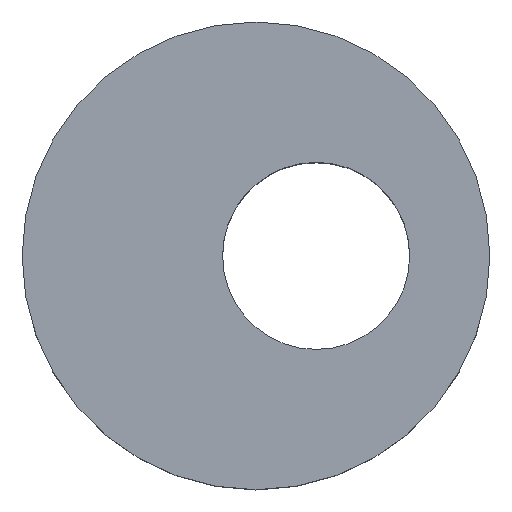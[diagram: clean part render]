
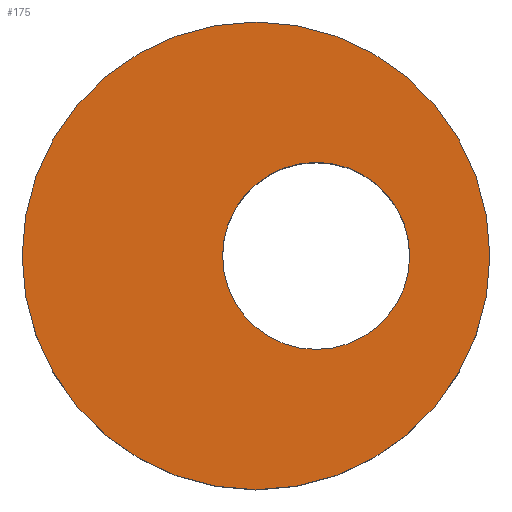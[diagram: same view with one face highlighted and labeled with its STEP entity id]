
A CAD part, top view. The second image highlights one B-rep face of the part: STEP entity #175.
In plain terms, the highlighted planar face has unit normal (0, 0, 1).
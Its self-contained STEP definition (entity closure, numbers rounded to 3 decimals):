
#104=CARTESIAN_POINT('',(2.6,0.,4.4));
#105=VERTEX_POINT('',#104);
#106=CARTESIAN_POINT('',(-0.9,0.,4.4));
#107=DIRECTION('',(0.0,0.0,-1.0));
#108=DIRECTION('',(-1.0,0.0,0.0));
#109=AXIS2_PLACEMENT_3D('',#106,#107,#108);
#110=CIRCLE('',#109,3.5);
#111=EDGE_CURVE('',#105,#105,#110,.T.);
#121=CARTESIAN_POINT('',(1.4,0.,4.4));
#122=VERTEX_POINT('',#121);
#123=CARTESIAN_POINT('',(0.0,0.0,4.4));
#124=DIRECTION('',(0.0,0.0,-1.0));
#125=DIRECTION('',(-1.0,0.0,0.0));
#126=AXIS2_PLACEMENT_3D('',#123,#124,#125);
#127=CIRCLE('',#126,1.4);
#128=EDGE_CURVE('',#122,#122,#127,.T.);
#164=CARTESIAN_POINT('',(0.0,0.0,4.4));
#165=DIRECTION('',(0.0,0.0,-1.0));
#166=DIRECTION('',(-1.0,0.0,0.0));
#167=AXIS2_PLACEMENT_3D('',#164,#165,#166);
#168=PLANE('',#167);
#169=ORIENTED_EDGE('',*,*,#111,.F.);
#170=EDGE_LOOP('',(#169));
#171=FACE_OUTER_BOUND('',#170,.T.);
#172=ORIENTED_EDGE('',*,*,#128,.T.);
#173=EDGE_LOOP('',(#172));
#174=FACE_BOUND('',#173,.T.);
#175=ADVANCED_FACE('',(#171,#174),#168,.F.);
